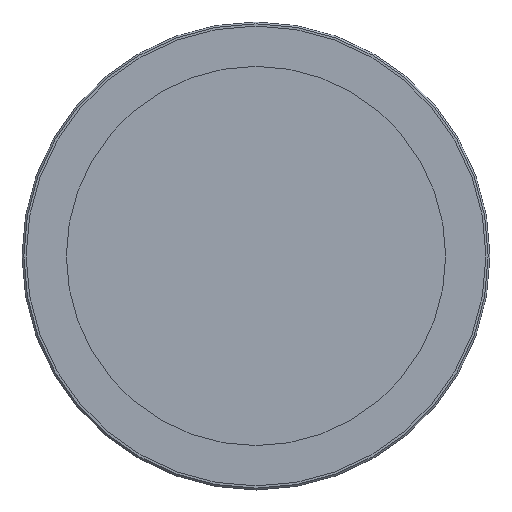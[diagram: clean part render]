
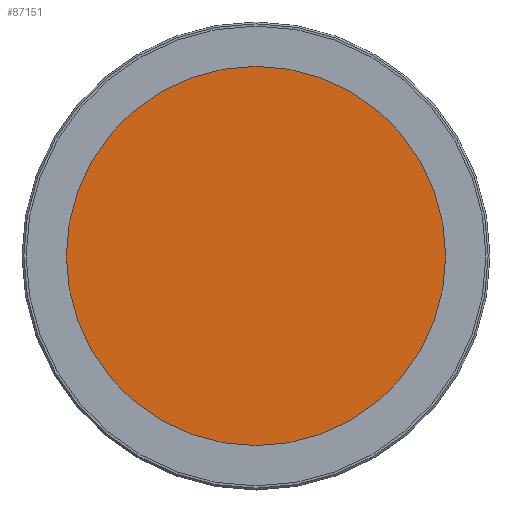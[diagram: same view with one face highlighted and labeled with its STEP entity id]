
A CAD part, top view. The second image highlights one B-rep face of the part: STEP entity #87151.
In plain terms, the highlighted planar face has unit normal (0, 0, 1).
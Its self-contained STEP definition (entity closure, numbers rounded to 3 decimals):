
#85738=CARTESIAN_POINT('',(0.,0.,3.58));
#85739=DIRECTION('',(0.,0.,1.));
#85740=DIRECTION('',(1.,0.,0.));
#85741=AXIS2_PLACEMENT_3D('',#85738,#85739,#85740);
#85746=CARTESIAN_POINT('',(0.,0.,3.58));
#85747=DIRECTION('',(0.,0.,1.));
#85748=DIRECTION('',(-1.,0.,0.));
#85749=AXIS2_PLACEMENT_3D('',#85746,#85747,#85748);
#86848=CARTESIAN_POINT('',(51.06,0.,3.58));
#86849=CARTESIAN_POINT('',(-51.06,0.,3.58));
#86850=VERTEX_POINT('',#86848);
#86851=VERTEX_POINT('',#86849);
#87142=CARTESIAN_POINT('',(0.,0.,3.58));
#87143=DIRECTION('',(0.,0.,1.));
#87144=DIRECTION('',(1.,0.,0.));
#87145=AXIS2_PLACEMENT_3D('',#87142,#87143,#87144);
#87146=PLANE('',#87145);
#87147=ORIENTED_EDGE('',*,*,#87122,.F.);
#87148=ORIENTED_EDGE('',*,*,#87136,.F.);
#87149=EDGE_LOOP('',(#87147,#87148));
#87150=FACE_OUTER_BOUND('',#87149,.F.);
#87151=ADVANCED_FACE('',(#87150),#87146,.T.);
#85742=CIRCLE('',#85741,51.06);
#85750=CIRCLE('',#85749,51.06);
#87122=EDGE_CURVE('',#86850,#86851,#85742,.T.);
#87136=EDGE_CURVE('',#86851,#86850,#85750,.T.);
